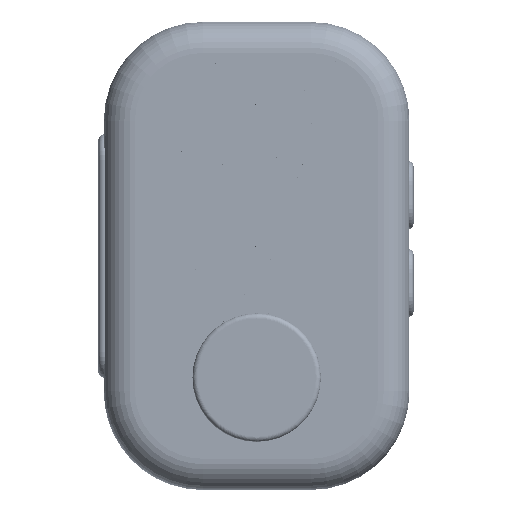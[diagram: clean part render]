
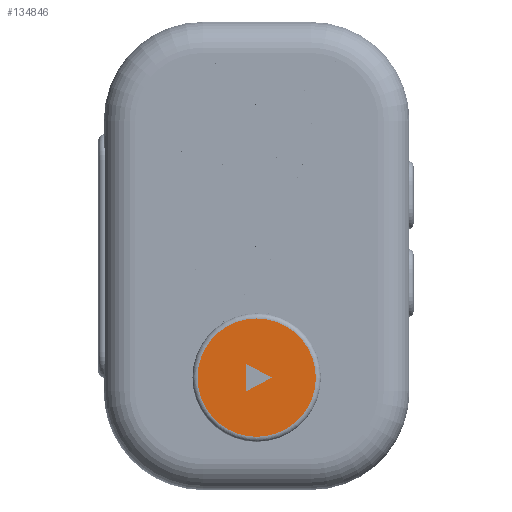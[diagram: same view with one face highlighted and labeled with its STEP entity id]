
A CAD part, top view. The second image highlights one B-rep face of the part: STEP entity #134846.
In plain terms, the highlighted planar face has unit normal (0, 0, 1).
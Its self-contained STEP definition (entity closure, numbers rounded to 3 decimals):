
#134496 = EDGE_CURVE('',#134497,#134499,#134501,.T.);
#134497 = VERTEX_POINT('',#134498);
#134498 = CARTESIAN_POINT('',(4.5,-36.,14.4));
#134499 = VERTEX_POINT('',#134500);
#134500 = CARTESIAN_POINT('',(-3.2,-40.1,14.4));
#134501 = SURFACE_CURVE('',#134502,(#134506,#134518),.PCURVE_S1.);
#134502 = LINE('',#134503,#134504);
#134503 = CARTESIAN_POINT('',(2.747,-36.933,14.4));
#134504 = VECTOR('',#134505,1.);
#134505 = DIRECTION('',(-0.883,-0.47,0.));
#134506 = PCURVE('',#134507,#134512);
#134507 = PLANE('',#134508);
#134508 = AXIS2_PLACEMENT_3D('',#134509,#134510,#134511);
#134509 = CARTESIAN_POINT('',(4.5,-36.,14.5));
#134510 = DIRECTION('',(0.47,-0.883,0.));
#134511 = DIRECTION('',(-0.883,-0.47,0.));
#134512 = DEFINITIONAL_REPRESENTATION('',(#134513),#134517);
#134513 = LINE('',#134514,#134515);
#134514 = CARTESIAN_POINT('',(1.986,0.1));
#134515 = VECTOR('',#134516,1.);
#134516 = DIRECTION('',(1.,0.));
#134517 = ( GEOMETRIC_REPRESENTATION_CONTEXT(2) 
PARAMETRIC_REPRESENTATION_CONTEXT() REPRESENTATION_CONTEXT('2D SPACE',''
  ) );
#134518 = PCURVE('',#134519,#134524);
#134519 = PLANE('',#134520);
#134520 = AXIS2_PLACEMENT_3D('',#134521,#134522,#134523);
#134521 = CARTESIAN_POINT('',(0.,-36.,14.4));
#134522 = DIRECTION('',(0.,0.,1.));
#134523 = DIRECTION('',(1.,0.,-0.));
#134524 = DEFINITIONAL_REPRESENTATION('',(#134525),#134529);
#134525 = LINE('',#134526,#134527);
#134526 = CARTESIAN_POINT('',(2.747,-0.933));
#134527 = VECTOR('',#134528,1.);
#134528 = DIRECTION('',(-0.883,-0.47));
#134529 = ( GEOMETRIC_REPRESENTATION_CONTEXT(2) 
PARAMETRIC_REPRESENTATION_CONTEXT() REPRESENTATION_CONTEXT('2D SPACE',''
  ) );
#134547 = PLANE('',#134548);
#134548 = AXIS2_PLACEMENT_3D('',#134549,#134550,#134551);
#134549 = CARTESIAN_POINT('',(-3.2,-31.9,14.5));
#134550 = DIRECTION('',(0.47,0.883,0.));
#134551 = DIRECTION('',(0.883,-0.47,0.));
#134601 = PLANE('',#134602);
#134602 = AXIS2_PLACEMENT_3D('',#134603,#134604,#134605);
#134603 = CARTESIAN_POINT('',(-3.2,-40.1,14.5));
#134604 = DIRECTION('',(-1.,0.,0.));
#134605 = DIRECTION('',(0.,1.,0.));
#134616 = EDGE_CURVE('',#134499,#134617,#134619,.T.);
#134617 = VERTEX_POINT('',#134618);
#134618 = CARTESIAN_POINT('',(-3.2,-31.9,14.4));
#134619 = SURFACE_CURVE('',#134620,(#134624,#134631),.PCURVE_S1.);
#134620 = LINE('',#134621,#134622);
#134621 = CARTESIAN_POINT('',(-3.2,-38.05,14.4));
#134622 = VECTOR('',#134623,1.);
#134623 = DIRECTION('',(0.,1.,0.));
#134624 = PCURVE('',#134601,#134625);
#134625 = DEFINITIONAL_REPRESENTATION('',(#134626),#134630);
#134626 = LINE('',#134627,#134628);
#134627 = CARTESIAN_POINT('',(2.05,0.1));
#134628 = VECTOR('',#134629,1.);
#134629 = DIRECTION('',(1.,0.));
#134630 = ( GEOMETRIC_REPRESENTATION_CONTEXT(2) 
PARAMETRIC_REPRESENTATION_CONTEXT() REPRESENTATION_CONTEXT('2D SPACE',''
  ) );
#134631 = PCURVE('',#134519,#134632);
#134632 = DEFINITIONAL_REPRESENTATION('',(#134633),#134637);
#134633 = LINE('',#134634,#134635);
#134634 = CARTESIAN_POINT('',(-3.2,-2.05));
#134635 = VECTOR('',#134636,1.);
#134636 = DIRECTION('',(0.,1.));
#134637 = ( GEOMETRIC_REPRESENTATION_CONTEXT(2) 
PARAMETRIC_REPRESENTATION_CONTEXT() REPRESENTATION_CONTEXT('2D SPACE',''
  ) );
#134687 = EDGE_CURVE('',#134617,#134497,#134688,.T.);
#134688 = SURFACE_CURVE('',#134689,(#134693,#134700),.PCURVE_S1.);
#134689 = LINE('',#134690,#134691);
#134690 = CARTESIAN_POINT('',(-1.103,-33.017,14.4));
#134691 = VECTOR('',#134692,1.);
#134692 = DIRECTION('',(0.883,-0.47,0.));
#134693 = PCURVE('',#134547,#134694);
#134694 = DEFINITIONAL_REPRESENTATION('',(#134695),#134699);
#134695 = LINE('',#134696,#134697);
#134696 = CARTESIAN_POINT('',(2.376,0.1));
#134697 = VECTOR('',#134698,1.);
#134698 = DIRECTION('',(1.,0.));
#134699 = ( GEOMETRIC_REPRESENTATION_CONTEXT(2) 
PARAMETRIC_REPRESENTATION_CONTEXT() REPRESENTATION_CONTEXT('2D SPACE',''
  ) );
#134700 = PCURVE('',#134519,#134701);
#134701 = DEFINITIONAL_REPRESENTATION('',(#134702),#134706);
#134702 = LINE('',#134703,#134704);
#134703 = CARTESIAN_POINT('',(-1.103,2.983));
#134704 = VECTOR('',#134705,1.);
#134705 = DIRECTION('',(0.883,-0.47));
#134706 = ( GEOMETRIC_REPRESENTATION_CONTEXT(2) 
PARAMETRIC_REPRESENTATION_CONTEXT() REPRESENTATION_CONTEXT('2D SPACE',''
  ) );
#134740 = EDGE_CURVE('',#134741,#134741,#134743,.T.);
#134741 = VERTEX_POINT('',#134742);
#134742 = CARTESIAN_POINT('',(-17.5,-36.,14.4));
#134743 = SURFACE_CURVE('',#134744,(#134749,#134761),.PCURVE_S1.);
#134744 = CIRCLE('',#134745,17.5);
#134745 = AXIS2_PLACEMENT_3D('',#134746,#134747,#134748);
#134746 = CARTESIAN_POINT('',(0.,-36.,14.4));
#134747 = DIRECTION('',(0.,0.,-1.));
#134748 = DIRECTION('',(1.,0.,0.));
#134749 = PCURVE('',#134750,#134755);
#134750 = TOROIDAL_SURFACE('',#134751,17.5,1.5);
#134751 = AXIS2_PLACEMENT_3D('',#134752,#134753,#134754);
#134752 = CARTESIAN_POINT('',(0.,-36.,12.9));
#134753 = DIRECTION('',(0.,0.,1.));
#134754 = DIRECTION('',(1.,0.,-0.));
#134755 = DEFINITIONAL_REPRESENTATION('',(#134756),#134760);
#134756 = LINE('',#134757,#134758);
#134757 = CARTESIAN_POINT('',(12.566,1.571));
#134758 = VECTOR('',#134759,1.);
#134759 = DIRECTION('',(-1.,0.));
#134760 = ( GEOMETRIC_REPRESENTATION_CONTEXT(2) 
PARAMETRIC_REPRESENTATION_CONTEXT() REPRESENTATION_CONTEXT('2D SPACE',''
  ) );
#134761 = PCURVE('',#134519,#134762);
#134762 = DEFINITIONAL_REPRESENTATION('',(#134763),#134771);
#134763 = ( BOUNDED_CURVE() B_SPLINE_CURVE(2,(#134764,#134765,#134766,
    #134767,#134768,#134769,#134770),.UNSPECIFIED.,.T.,.F.) 
B_SPLINE_CURVE_WITH_KNOTS((1,2,2,2,2,1),(-2.094,0.,
    2.094,4.189,6.283,8.378),
.UNSPECIFIED.) CURVE() GEOMETRIC_REPRESENTATION_ITEM() 
RATIONAL_B_SPLINE_CURVE((1.,0.5,1.,0.5,1.,0.5,1.)) REPRESENTATION_ITEM(
  '') );
#134764 = CARTESIAN_POINT('',(17.5,0.));
#134765 = CARTESIAN_POINT('',(17.5,-30.311));
#134766 = CARTESIAN_POINT('',(-8.75,-15.155));
#134767 = CARTESIAN_POINT('',(-35.,0.));
#134768 = CARTESIAN_POINT('',(-8.75,15.155));
#134769 = CARTESIAN_POINT('',(17.5,30.311));
#134770 = CARTESIAN_POINT('',(17.5,0.));
#134771 = ( GEOMETRIC_REPRESENTATION_CONTEXT(2) 
PARAMETRIC_REPRESENTATION_CONTEXT() REPRESENTATION_CONTEXT('2D SPACE',''
  ) );
#134846 = ADVANCED_FACE('',(#134847,#134850),#134519,.T.);
#134847 = FACE_BOUND('',#134848,.T.);
#134848 = EDGE_LOOP('',(#134849));
#134849 = ORIENTED_EDGE('',*,*,#134740,.F.);
#134850 = FACE_BOUND('',#134851,.T.);
#134851 = EDGE_LOOP('',(#134852,#134853,#134854));
#134852 = ORIENTED_EDGE('',*,*,#134616,.T.);
#134853 = ORIENTED_EDGE('',*,*,#134687,.T.);
#134854 = ORIENTED_EDGE('',*,*,#134496,.T.);
